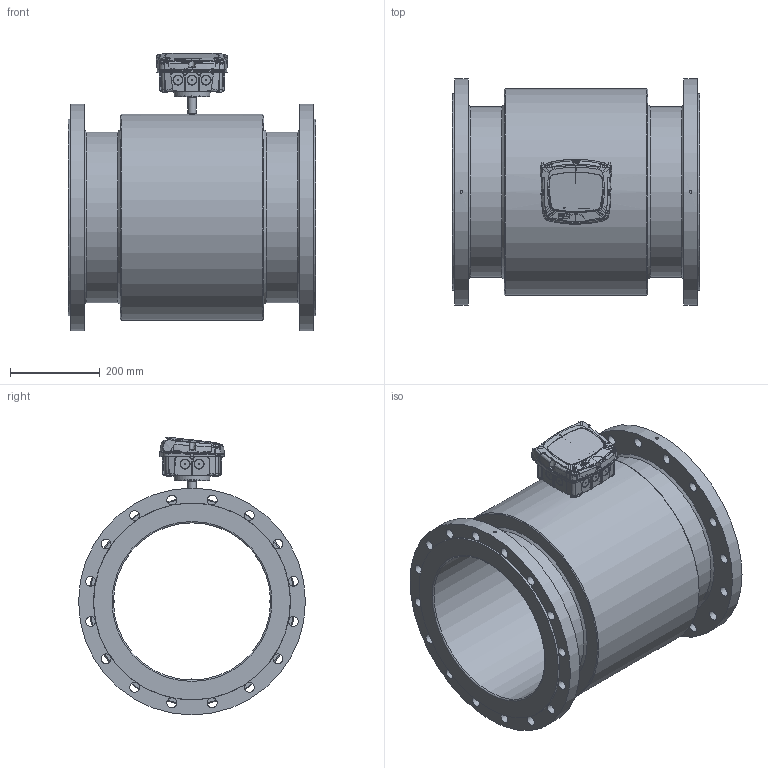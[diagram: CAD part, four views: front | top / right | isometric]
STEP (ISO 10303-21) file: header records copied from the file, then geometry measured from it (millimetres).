
FILE_DESCRIPTION((''),'2;1');
FILE_NAME('C:\Users\Claus\Dropbox\Projects 2011 - 2012\MJK Automation AS\DN 350 - DIN EN-1095-1.stp','2014-10-24T15:13:27',('Claus'),(''),'Autodesk Inventor 2013','Autodesk Inventor 2013','');
FILE_SCHEMA(('AUTOMOTIVE_DESIGN { 1 0 10303 214 1 1 1 1 }'));
Length unit declared in the file: millimetre
Products named in the file (7): DN 350 - DIN EN-1095-1; FC_MagFlux_assembly_r1; CH Bund ml; FC Top rev 06.04; CH 03.02; Electrode group DN15 - DN32
Assembly tree (8 placements, depth 3):
  DN 350 - DIN EN-1095-1
    DN 350 - DIN EN-1095-1
    FC_MagFlux_assembly_r1
      CH Bund ml
      FC Top rev 06.04
      CH 03.02
    Electrode group DN15 - DN32  x3
Bounding box: 550 x 505 x 618.34 mm (x, y, z)
Volume: 31763870.7 mm3; surface area: 2127478.6 mm2
Topology: 10 solids, 10 shells, 2951 faces, 8105 edges, 5266 vertices
Faces by surface type: bspline 1752, plane 810, cylinder 226, cone 123, torus 25, revolution 9, sphere 6
Full cylindrical faces by diameter (mm): 2.5 x3, 3 x6, 4 x1, 6 x2, 6.5 x4, 7.042 x4, 8 x3, 8.048 x4, 12.072 x4, 15 x1, 18 x1, 18.108 x1, 22 x32, 64 x1, 350 x1, 380 x2, 438 x2, 459 x1, 505 x2
Entity records: 234776 total; most frequent: CARTESIAN_POINT 171672, ORIENTED_EDGE 15620, DIRECTION 7913, EDGE_CURVE 7810, VERTEX_POINT 5171, EDGE_LOOP 3305, VECTOR 3112, LINE 3112
